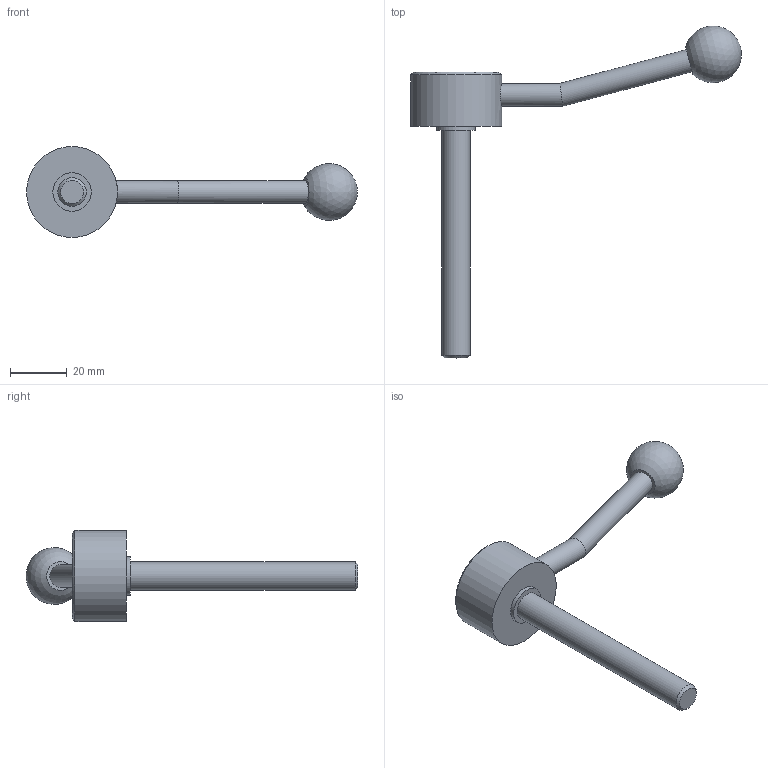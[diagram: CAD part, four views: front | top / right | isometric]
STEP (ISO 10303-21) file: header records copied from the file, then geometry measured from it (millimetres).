
FILE_DESCRIPTION( ( 'STEP AP203' ), '1' );
FILE_NAME( 'C:/Temp/Ganter_Step_05_03_2020/data/2_1/gn_125/gn_125_ms/gn_125_ms_e/Flat Adjustable Lever GN 125-32-M10-80-E.stp', '2020-03-05T11:00:57', ( 'License CC BY-ND 4.0' ), ( 'CADENAS' ), ' ', 'PARTsolutions', ' ' );
FILE_SCHEMA( ( 'CONFIG_CONTROL_DESIGN' ) );
Length unit declared in the file: millimetre
Products named in the file (1): _Flat Adjustable Lever GN 125-32-M10-80-E
Bounding box: 116.34 x 116.72 x 32 mm (x, y, z)
Volume: 29158.6 mm3; surface area: 8889.4 mm2
Topology: 1 solids, 1 shells, 15 faces, 26 edges, 17 vertices
Faces by surface type: cylinder 6, plane 6, cone 2, sphere 1
Full cylindrical faces by diameter (mm): 8 x2, 10 x1, 13.5 x1, 22 x1, 32 x1
Entity records: 404 total; most frequent: CARTESIAN_POINT 110, DIRECTION 58, AXIS2_PLACEMENT_3D 29, EDGE_LOOP 28, ORIENTED_EDGE 28, FACE_OUTER_BOUND 21, ADVANCED_FACE 15, VERTEX_POINT 15
